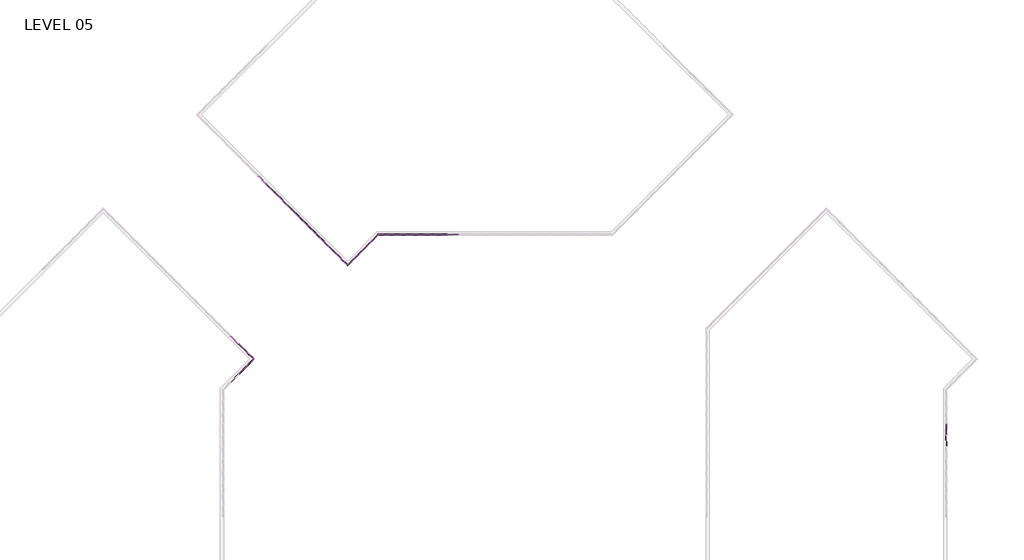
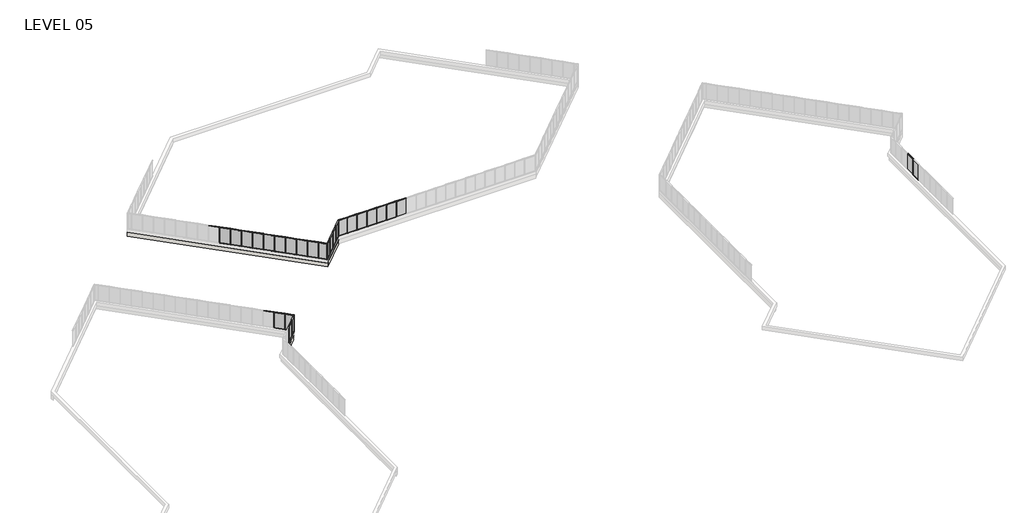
# One storey, part 12 of 17: 84 members, 27 plates, 3 walls.
"""IFC4 building model written with IfcOpenShell, lengths in millimetres."""

from ifc_helpers import new_model, si_unit, frame, origin, place, context, project, spatial, polyline, outline, extrude, faceted_brep, transform, mapped, element, save
from components import member_5247f267, member_e44af9ab, member_800970d4, member_45eb7f2e, member_910c08c9, member_dd9f6d43, plate_67294edd, plate_9c66726c, plate_88df3e37, plate_c3b8b83d, plate_129ab9d0, plate_6ecefdb5

model = new_model("IFC4")

# Units and contexts
model_context = context("Model", 3, world=origin())
ifc_project = project(units=[si_unit("LENGTHUNIT", "METRE", prefix="MILLI")], contexts=[model_context])

# Site, building, storey
site = spatial("IfcSite", under=ifc_project)
building = spatial("IfcBuilding", under=site)
storey = spatial("IfcBuildingStorey", under=building, Name="LEVEL 05", Elevation=15824.2)

# Members
placement = place(None, origin())
member_shape = member_5247f267(model_context)
element("IfcMember", 1, ObjectType="Rectangular Mullion : 2\" x 4.5\" rectangular", at=placement, inside=storey, context=model_context, shape_type="MappedRepresentation", body=[
    mapped(member_shape, transform((6200.5095063, 93365.536663, 15824.2), x_axis=(0.0, 0.0, -1.0), y_axis=(-0.7071067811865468, -0.7071067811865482, 0.0), z_axis=(-0.7071067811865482, 0.7071067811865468, 0.0))),
])
element("IfcMember", 2, ObjectType="Rectangular Mullion : 2\" x 4.5\" rectangular", at=placement, inside=storey, context=model_context, shape_type="MappedRepresentation", body=[
    mapped(member_shape, transform((7278.1402408, 92287.9059285, 15824.2), x_axis=(0.0, 0.0, -1.0), y_axis=(-0.7071067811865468, -0.7071067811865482, 0.0), z_axis=(-0.7071067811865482, 0.7071067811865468, 0.0))),
])
element("IfcMember", 3, ObjectType="Rectangular Mullion : 2\" x 4.5\" rectangular", at=placement, inside=storey, context=model_context, shape_type="MappedRepresentation", body=[
    mapped(member_shape, transform((8355.7709754, 91210.2751939, 15824.2), x_axis=(0.0, 0.0, -1.0), y_axis=(-0.7071067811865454, -0.7071067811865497, 0.0), z_axis=(-0.7071067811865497, 0.7071067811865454, 0.0))),
])
element("IfcMember", 4, ObjectType="Rectangular Mullion : 2\" x 4.5\" rectangular", at=placement, inside=storey, context=model_context, shape_type="MappedRepresentation", body=[
    mapped(member_shape, transform((9433.4017099, 90132.6444594, 15824.2), x_axis=(0.0, 0.0, -1.0), y_axis=(-0.7071067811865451, -0.7071067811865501, 0.0), z_axis=(-0.7071067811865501, 0.7071067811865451, 0.0))),
])
element("IfcMember", 5, ObjectType="Rectangular Mullion : 2\" x 4.5\" rectangular", at=placement, inside=storey, context=model_context, shape_type="MappedRepresentation", body=[
    mapped(member_shape, transform((10511.0324444, 89055.0137249, 15824.2), x_axis=(0.0, 0.0, -1.0), y_axis=(-0.7071067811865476, -0.7071067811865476, 0.0), z_axis=(-0.7071067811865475, 0.7071067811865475, 0.0))),
])
element("IfcMember", 6, ObjectType="Rectangular Mullion : 2\" x 4.5\" rectangular", at=placement, inside=storey, context=model_context, shape_type="MappedRepresentation", body=[
    mapped(member_shape, transform((11588.663179, 87977.3829903, 15824.2), x_axis=(0.0, 0.0, -1.0), y_axis=(-0.7071067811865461, -0.707106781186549, 0.0), z_axis=(-0.707106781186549, 0.7071067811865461, 0.0))),
])
element("IfcMember", 7, ObjectType="Rectangular Mullion : 2\" x 4.5\" rectangular", at=placement, inside=storey, context=model_context, shape_type="MappedRepresentation", body=[
    mapped(member_shape, transform((12666.2939135, 86899.7522558, 15824.2), x_axis=(0.0, 0.0, -1.0), y_axis=(-0.7071067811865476, -0.7071067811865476, 0.0), z_axis=(-0.7071067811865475, 0.7071067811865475, 0.0))),
])
element("IfcMember", 8, ObjectType="Rectangular Mullion : 2\" x 4.5\" rectangular", at=placement, inside=storey, context=model_context, shape_type="MappedRepresentation", body=[
    mapped(member_shape, transform((15463.8924855, 85858.0386548, 15824.2), x_axis=(0.0, 0.0, -1.0), y_axis=(0.7071067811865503, -0.7071067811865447, 0.0), z_axis=(-0.7071067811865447, -0.7071067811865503, 0.0))),
])
element("IfcMember", 9, ObjectType="Rectangular Mullion : 2\" x 4.5\" rectangular", at=placement, inside=storey, context=model_context, shape_type="MappedRepresentation", body=[
    mapped(member_shape, transform((16541.5232201, 86935.6693894, 15824.2), x_axis=(0.0, 0.0, -1.0), y_axis=(0.7071067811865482, -0.7071067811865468, 0.0), z_axis=(-0.7071067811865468, -0.7071067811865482, 0.0))),
])
element("IfcMember", 10, ObjectType="Rectangular Mullion : 2\" x 4.5\" rectangular", at=placement, inside=storey, context=model_context, shape_type="MappedRepresentation", body=[
    mapped(member_shape, transform((27514.55, 88955.8023049, 15824.2), x_axis=(0.0, 0.0, -1.0), y_axis=(0.0, 1.0, 0.0), z_axis=(1.0, 0.0, 0.0))),
])
element("IfcMember", 11, ObjectType="Rectangular Mullion : 2\" x 4.5\" rectangular", at=placement, inside=storey, context=model_context, shape_type="MappedRepresentation", body=[
    mapped(member_shape, transform((24466.55, 88955.8023049, 15824.2), x_axis=(0.0, 0.0, -1.0), y_axis=(0.0, 1.0, 0.0), z_axis=(1.0, 0.0, 0.0))),
])
element("IfcMember", 12, ObjectType="Rectangular Mullion : 2\" x 4.5\" rectangular", at=placement, inside=storey, context=model_context, shape_type="MappedRepresentation", body=[
    mapped(member_shape, transform((22942.55, 88955.8023049, 15824.2), x_axis=(0.0, 0.0, -1.0), y_axis=(0.0, 1.0, 0.0), z_axis=(1.0, 0.0, 0.0))),
])
element("IfcMember", 13, ObjectType="Rectangular Mullion : 2\" x 4.5\" rectangular", at=placement, inside=storey, context=model_context, shape_type="MappedRepresentation", body=[
    mapped(member_shape, transform((21418.55, 88955.8023049, 15824.2), x_axis=(0.0, 0.0, -1.0), y_axis=(0.0, 1.0, 0.0), z_axis=(1.0, 0.0, 0.0))),
])
element("IfcMember", 14, ObjectType="Rectangular Mullion : 2\" x 4.5\" rectangular", at=placement, inside=storey, context=model_context, shape_type="MappedRepresentation", body=[
    mapped(member_shape, transform((25990.55, 88955.8023049, 15824.2), x_axis=(0.0, 0.0, -1.0), y_axis=(0.0, 1.0, 0.0), z_axis=(1.0, 0.0, 0.0))),
])
element("IfcMember", 15, ObjectType="Rectangular Mullion : 2\" x 4.5\" rectangular", at=placement, inside=storey, context=model_context, shape_type="MappedRepresentation", body=[
    mapped(member_shape, transform((4009.6843581, 95556.3618112, 18415.0), x_axis=(0.0, 0.0, 1.0), y_axis=(-0.7071067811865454, -0.7071067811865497, 0.0), z_axis=(0.7071067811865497, -0.7071067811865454, 0.0))),
])
element("IfcMember", 16, ObjectType="Rectangular Mullion : 2\" x 4.5\" rectangular", at=placement, inside=storey, context=model_context, shape_type="MappedRepresentation", body=[
    mapped(member_shape, transform((7242.2192164, 92323.8269529, 18415.0), x_axis=(0.0, 0.0, 1.0), y_axis=(-0.7071067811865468, -0.7071067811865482, 0.0), z_axis=(0.7071067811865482, -0.7071067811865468, 0.0))),
])
element("IfcMember", 17, ObjectType="Rectangular Mullion : 2\" x 4.5\" rectangular", at=placement, inside=storey, context=model_context, shape_type="MappedRepresentation", body=[
    mapped(member_shape, transform((8319.8499509, 91246.1962184, 18415.0), x_axis=(0.0, 0.0, 1.0), y_axis=(-0.7071067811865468, -0.7071067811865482, 0.0), z_axis=(0.7071067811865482, -0.7071067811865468, 0.0))),
])
element("IfcMember", 18, ObjectType="Rectangular Mullion : 2\" x 4.5\" rectangular", at=placement, inside=storey, context=model_context, shape_type="MappedRepresentation", body=[
    mapped(member_shape, transform((9397.4806854, 90168.5654839, 18415.0), x_axis=(0.0, 0.0, 1.0), y_axis=(-0.7071067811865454, -0.7071067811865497, 0.0), z_axis=(0.7071067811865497, -0.7071067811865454, 0.0))),
])
element("IfcMember", 19, ObjectType="Rectangular Mullion : 2\" x 4.5\" rectangular", at=placement, inside=storey, context=model_context, shape_type="MappedRepresentation", body=[
    mapped(member_shape, transform((10475.1114199, 89090.9347494, 18415.0), x_axis=(0.0, 0.0, 1.0), y_axis=(-0.7071067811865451, -0.7071067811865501, 0.0), z_axis=(0.7071067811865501, -0.7071067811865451, 0.0))),
])
element("IfcMember", 20, ObjectType="Rectangular Mullion : 2\" x 4.5\" rectangular", at=placement, inside=storey, context=model_context, shape_type="MappedRepresentation", body=[
    mapped(member_shape, transform((11552.7421545, 88013.3040148, 18415.0), x_axis=(0.0, 0.0, 1.0), y_axis=(-0.7071067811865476, -0.7071067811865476, 0.0), z_axis=(0.7071067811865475, -0.7071067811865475, 0.0))),
])
element("IfcMember", 21, ObjectType="Rectangular Mullion : 2\" x 4.5\" rectangular", at=placement, inside=storey, context=model_context, shape_type="MappedRepresentation", body=[
    mapped(member_shape, transform((12630.372889, 86935.6732803, 18415.0), x_axis=(0.0, 0.0, 1.0), y_axis=(-0.7071067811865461, -0.707106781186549, 0.0), z_axis=(0.707106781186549, -0.7071067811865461, 0.0))),
])
element("IfcMember", 22, ObjectType="Rectangular Mullion : 2\" x 4.5\" rectangular", at=placement, inside=storey, context=model_context, shape_type="MappedRepresentation", body=[
    mapped(member_shape, transform((13708.0036235, 85858.0425458, 18415.0), x_axis=(0.0, 0.0, 1.0), y_axis=(-0.7071067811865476, -0.7071067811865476, 0.0), z_axis=(0.7071067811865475, -0.7071067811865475, 0.0))),
])
element("IfcMember", 23, ObjectType="Rectangular Mullion : 2\" x 4.5\" rectangular", at=placement, inside=storey, context=model_context, shape_type="MappedRepresentation", body=[
    mapped(member_shape, transform((17583.2329301, 87977.3790994, 18415.0), x_axis=(0.0, 0.0, 1.0), y_axis=(0.7071067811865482, -0.7071067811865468, 0.0), z_axis=(0.7071067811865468, 0.7071067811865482, 0.0))),
])
element("IfcMember", 24, ObjectType="Rectangular Mullion : 2\" x 4.5\" rectangular", at=placement, inside=storey, context=model_context, shape_type="MappedRepresentation", body=[
    mapped(member_shape, transform((16505.6021956, 86899.7483649, 18415.0), x_axis=(0.0, 0.0, 1.0), y_axis=(0.7071067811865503, -0.7071067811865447, 0.0), z_axis=(0.7071067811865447, 0.7071067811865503, 0.0))),
])
element("IfcMember", 25, ObjectType="Rectangular Mullion : 2\" x 4.5\" rectangular", at=placement, inside=storey, context=model_context, shape_type="MappedRepresentation", body=[
    mapped(member_shape, transform((27565.35, 88955.8023049, 18415.0), x_axis=(0.0, 0.0, 1.0), y_axis=(0.0, 1.0, 0.0), z_axis=(-1.0, 0.0, 0.0))),
])
element("IfcMember", 26, ObjectType="Rectangular Mullion : 2\" x 4.5\" rectangular", at=placement, inside=storey, context=model_context, shape_type="MappedRepresentation", body=[
    mapped(member_shape, transform((24517.35, 88955.8023049, 18415.0), x_axis=(0.0, 0.0, 1.0), y_axis=(0.0, 1.0, 0.0), z_axis=(-1.0, 0.0, 0.0))),
])
element("IfcMember", 27, ObjectType="Rectangular Mullion : 2\" x 4.5\" rectangular", at=placement, inside=storey, context=model_context, shape_type="MappedRepresentation", body=[
    mapped(member_shape, transform((22993.35, 88955.8023049, 18415.0), x_axis=(0.0, 0.0, 1.0), y_axis=(0.0, 1.0, 0.0), z_axis=(-1.0, 0.0, 0.0))),
])
element("IfcMember", 28, ObjectType="Rectangular Mullion : 2\" x 4.5\" rectangular", at=placement, inside=storey, context=model_context, shape_type="MappedRepresentation", body=[
    mapped(member_shape, transform((21469.35, 88955.8023049, 18415.0), x_axis=(0.0, 0.0, 1.0), y_axis=(0.0, 1.0, 0.0), z_axis=(-1.0, 0.0, 0.0))),
])
element("IfcMember", 29, ObjectType="Rectangular Mullion : 2\" x 4.5\" rectangular", at=placement, inside=storey, context=model_context, shape_type="MappedRepresentation", body=[
    mapped(member_shape, transform((19945.35, 88955.8023049, 18415.0), x_axis=(0.0, 0.0, 1.0), y_axis=(0.0, 1.0, 0.0), z_axis=(-1.0, 0.0, 0.0))),
])
element("IfcMember", 30, ObjectType="Rectangular Mullion : 2\" x 4.5\" rectangular", at=placement, inside=storey, context=model_context, shape_type="MappedRepresentation", body=[
    mapped(member_shape, transform((26041.35, 88955.8023049, 18415.0), x_axis=(0.0, 0.0, 1.0), y_axis=(0.0, 1.0, 0.0), z_axis=(-1.0, 0.0, 0.0))),
])
member_2_shape = member_e44af9ab(model_context)
element("IfcMember", 31, ObjectType="Rectangular Mullion : 2\" x 4.5\" rectangular", at=placement, inside=storey, context=model_context, shape_type="MappedRepresentation", body=[
    mapped(member_2_shape, transform((4027.6448703, 95538.401299, 15824.2), x_axis=(0.7071067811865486, -0.7071067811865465, 0.0), y_axis=(-0.7071067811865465, -0.7071067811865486, 0.0), z_axis=(0.0, 0.0, -1.0))),
])
element("IfcMember", 32, ObjectType="Rectangular Mullion : 2\" x 4.5\" rectangular", at=placement, inside=storey, context=model_context, shape_type="MappedRepresentation", body=[
    mapped(member_2_shape, transform((6182.5489941, 93383.4971752, 15824.2), x_axis=(0.7071067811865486, -0.7071067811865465, 0.0), y_axis=(-0.7071067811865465, -0.7071067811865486, 0.0), z_axis=(0.0, 0.0, -1.0))),
])
element("IfcMember", 33, ObjectType="Rectangular Mullion : 2\" x 4.5\" rectangular", at=placement, inside=storey, context=model_context, shape_type="MappedRepresentation", body=[
    mapped(member_2_shape, transform((7260.1797286, 92305.8664407, 15824.2), x_axis=(0.7071067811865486, -0.7071067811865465, 0.0), y_axis=(-0.7071067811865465, -0.7071067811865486, 0.0), z_axis=(0.0, 0.0, -1.0))),
])
element("IfcMember", 34, ObjectType="Rectangular Mullion : 2\" x 4.5\" rectangular", at=placement, inside=storey, context=model_context, shape_type="MappedRepresentation", body=[
    mapped(member_2_shape, transform((8337.8104631, 91228.2357062, 15824.2), x_axis=(0.7071067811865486, -0.7071067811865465, 0.0), y_axis=(-0.7071067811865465, -0.7071067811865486, 0.0), z_axis=(0.0, 0.0, -1.0))),
])
element("IfcMember", 35, ObjectType="Rectangular Mullion : 2\" x 4.5\" rectangular", at=placement, inside=storey, context=model_context, shape_type="MappedRepresentation", body=[
    mapped(member_2_shape, transform((5105.0969322, 94460.9492371, 15824.2), x_axis=(0.7071067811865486, -0.7071067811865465, 0.0), y_axis=(-0.7071067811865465, -0.7071067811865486, 0.0), z_axis=(0.0, 0.0, -1.0))),
])
element("IfcMember", 36, ObjectType="Rectangular Mullion : 2\" x 4.5\" rectangular", at=placement, inside=storey, context=model_context, shape_type="MappedRepresentation", body=[
    mapped(member_2_shape, transform((9415.4411977, 90150.6049716, 15824.2), x_axis=(0.7071067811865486, -0.7071067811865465, 0.0), y_axis=(-0.7071067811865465, -0.7071067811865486, 0.0), z_axis=(0.0, 0.0, -1.0))),
])
element("IfcMember", 37, ObjectType="Rectangular Mullion : 2\" x 4.5\" rectangular", at=placement, inside=storey, context=model_context, shape_type="MappedRepresentation", body=[
    mapped(member_2_shape, transform((10493.0719322, 89072.9742371, 15824.2), x_axis=(0.7071067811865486, -0.7071067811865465, 0.0), y_axis=(-0.7071067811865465, -0.7071067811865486, 0.0), z_axis=(0.0, 0.0, -1.0))),
])
element("IfcMember", 38, ObjectType="Rectangular Mullion : 2\" x 4.5\" rectangular", at=placement, inside=storey, context=model_context, shape_type="MappedRepresentation", body=[
    mapped(member_2_shape, transform((11570.7026667, 87995.3435026, 15824.2), x_axis=(0.7071067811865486, -0.7071067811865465, 0.0), y_axis=(-0.7071067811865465, -0.7071067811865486, 0.0), z_axis=(0.0, 0.0, -1.0))),
])
element("IfcMember", 39, ObjectType="Rectangular Mullion : 2\" x 4.5\" rectangular", at=placement, inside=storey, context=model_context, shape_type="MappedRepresentation", body=[
    mapped(member_2_shape, transform((12648.3334012, 86917.7127681, 15824.2), x_axis=(0.7071067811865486, -0.7071067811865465, 0.0), y_axis=(-0.7071067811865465, -0.7071067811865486, 0.0), z_axis=(0.0, 0.0, -1.0))),
])
element("IfcMember", 40, ObjectType="Rectangular Mullion : 2\" x 4.5\" rectangular", at=placement, inside=storey, context=model_context, shape_type="MappedRepresentation", body=[
    mapped(member_2_shape, transform((13725.9641358, 85840.0820335, 15824.2), x_axis=(0.7071067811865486, -0.7071067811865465, 0.0), y_axis=(-0.7071067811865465, -0.7071067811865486, 0.0), z_axis=(0.0, 0.0, -1.0))),
])
element("IfcMember", 41, ObjectType="Rectangular Mullion : 2\" x 4.5\" rectangular", at=placement, inside=storey, context=model_context, shape_type="MappedRepresentation", body=[
    mapped(member_2_shape, transform((15445.9319733, 85840.0781426, 15824.2), x_axis=(0.7071067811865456, 0.7071067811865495, 0.0), y_axis=(0.7071067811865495, -0.7071067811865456, 0.0), z_axis=(0.0, 0.0, -1.0))),
])
element("IfcMember", 42, ObjectType="Rectangular Mullion : 2\" x 4.5\" rectangular", at=placement, inside=storey, context=model_context, shape_type="MappedRepresentation", body=[
    mapped(member_2_shape, transform((17601.1934424, 87995.3396117, 15824.2), x_axis=(0.7071067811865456, 0.7071067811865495, 0.0), y_axis=(0.7071067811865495, -0.7071067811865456, 0.0), z_axis=(0.0, 0.0, -1.0))),
])
element("IfcMember", 43, ObjectType="Rectangular Mullion : 2\" x 4.5\" rectangular", at=placement, inside=storey, context=model_context, shape_type="MappedRepresentation", body=[
    mapped(member_2_shape, transform((16523.5627078, 86917.7088771, 15824.2), x_axis=(0.7071067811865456, 0.7071067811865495, 0.0), y_axis=(0.7071067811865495, -0.7071067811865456, 0.0), z_axis=(0.0, 0.0, -1.0))),
])
element("IfcMember", 44, ObjectType="Rectangular Mullion : 2\" x 4.5\" rectangular", at=placement, inside=storey, context=model_context, shape_type="MappedRepresentation", body=[
    mapped(member_2_shape, transform((27539.95, 88955.8023049, 15824.2), x_axis=(-1.0, 0.0, 0.0), y_axis=(0.0, 1.0, 0.0), z_axis=(0.0, 0.0, -1.0))),
])
element("IfcMember", 45, ObjectType="Rectangular Mullion : 2\" x 4.5\" rectangular", at=placement, inside=storey, context=model_context, shape_type="MappedRepresentation", body=[
    mapped(member_2_shape, transform((24491.95, 88955.8023049, 15824.2), x_axis=(-1.0, 0.0, 0.0), y_axis=(0.0, 1.0, 0.0), z_axis=(0.0, 0.0, -1.0))),
])
element("IfcMember", 46, ObjectType="Rectangular Mullion : 2\" x 4.5\" rectangular", at=placement, inside=storey, context=model_context, shape_type="MappedRepresentation", body=[
    mapped(member_2_shape, transform((22967.95, 88955.8023049, 15824.2), x_axis=(-1.0, 0.0, 0.0), y_axis=(0.0, 1.0, 0.0), z_axis=(0.0, 0.0, -1.0))),
])
element("IfcMember", 47, ObjectType="Rectangular Mullion : 2\" x 4.5\" rectangular", at=placement, inside=storey, context=model_context, shape_type="MappedRepresentation", body=[
    mapped(member_2_shape, transform((21443.95, 88955.8023049, 15824.2), x_axis=(-1.0, 0.0, 0.0), y_axis=(0.0, 1.0, 0.0), z_axis=(0.0, 0.0, -1.0))),
])
element("IfcMember", 48, ObjectType="Rectangular Mullion : 2\" x 4.5\" rectangular", at=placement, inside=storey, context=model_context, shape_type="MappedRepresentation", body=[
    mapped(member_2_shape, transform((19919.95, 88955.8023049, 15824.2), x_axis=(-1.0, 0.0, 0.0), y_axis=(0.0, 1.0, 0.0), z_axis=(0.0, 0.0, -1.0))),
])
element("IfcMember", 49, ObjectType="Rectangular Mullion : 2\" x 4.5\" rectangular", at=placement, inside=storey, context=model_context, shape_type="MappedRepresentation", body=[
    mapped(member_2_shape, transform((26015.95, 88955.8023049, 15824.2), x_axis=(-1.0, 0.0, 0.0), y_axis=(0.0, 1.0, 0.0), z_axis=(0.0, 0.0, -1.0))),
])
member_3_shape = member_800970d4(model_context)
element("IfcMember", 50, ObjectType="Rectangular Mullion : 2\" x 4.5\" rectangular", at=placement, inside=storey, context=model_context, shape_type="MappedRepresentation", body=[
    mapped(member_3_shape, transform((14585.95, 84980.0961693, 15824.2), x_axis=(0.7071067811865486, -0.7071067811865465, 0.0), y_axis=(-0.7071067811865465, -0.7071067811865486, 0.0), z_axis=(0.0, 0.0, -1.0))),
])
element("IfcMember", 51, ObjectType="Rectangular Mullion : 2\" x 4.5\" rectangular", at=placement, inside=storey, context=model_context, shape_type="MappedRepresentation", body=[
    mapped(member_3_shape, transform((18561.6561356, 88955.8023049, 15824.2), x_axis=(0.7071067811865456, 0.7071067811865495, 0.0), y_axis=(0.7071067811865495, -0.7071067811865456, 0.0), z_axis=(0.0, 0.0, -1.0))),
])
element("IfcMember", 52, ObjectType="Rectangular Mullion : 2\" x 4.5\" rectangular", at=placement, inside=storey, context=model_context, shape_type="MappedRepresentation", body=[
    mapped(member_3_shape, transform((18561.6561356, 88955.8023049, 15824.2), x_axis=(-1.0, 0.0, 0.0), y_axis=(0.0, 1.0, 0.0), z_axis=(0.0, 0.0, -1.0))),
])
element("IfcMember", 53, ObjectType="Rectangular Mullion : 2\" x 4.5\" rectangular", at=placement, inside=storey, context=model_context, shape_type="MappedRepresentation", body=[
    mapped(member_3_shape, transform((14585.95, 84980.0961693, 18415.0), x_axis=(-0.7071067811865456, -0.7071067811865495, 0.0), y_axis=(0.7071067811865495, -0.7071067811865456, 0.0), z_axis=(0.0, 0.0, 1.0))),
])
member_4_shape = member_45eb7f2e(model_context)
element("IfcMember", 54, ObjectType="Rectangular Mullion : 2\" x 4.5\" rectangular", at=placement, inside=storey, context=model_context, shape_type="MappedRepresentation", body=[
    mapped(member_4_shape, transform((18525.7351111, 88919.8812804, 18415.0), x_axis=(0.0, 0.0, 1.0), y_axis=(0.7071067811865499, -0.7071067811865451, 0.0), z_axis=(0.7071067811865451, 0.7071067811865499, 0.0))),
])
element("IfcMember", 55, ObjectType="Rectangular Mullion : 2\" x 4.5\" rectangular", at=placement, inside=storey, context=model_context, shape_type="MappedRepresentation", body=[
    mapped(member_4_shape, transform((18612.4561356, 88955.8023049, 18415.0), x_axis=(0.0, 0.0, 1.0), y_axis=(0.0, 1.0, 0.0), z_axis=(-1.0, 0.0, 0.0))),
])
element("IfcMember", 56, ObjectType="Rectangular Mullion : 2\" x 4.5\" rectangular", at=placement, inside=storey, context=model_context, shape_type="MappedRepresentation", body=[
    mapped(member_4_shape, transform((17619.1539546, 88013.3001239, 15824.2), x_axis=(0.0, 0.0, -1.0), y_axis=(0.7071067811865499, -0.7071067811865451, 0.0), z_axis=(-0.7071067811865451, -0.7071067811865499, 0.0))),
])
element("IfcMember", 57, ObjectType="Rectangular Mullion : 2\" x 4.5\" rectangular", at=placement, inside=storey, context=model_context, shape_type="MappedRepresentation", body=[
    mapped(member_4_shape, transform((19894.55, 88955.8023049, 15824.2), x_axis=(0.0, 0.0, -1.0), y_axis=(0.0, 1.0, 0.0), z_axis=(1.0, 0.0, 0.0))),
])
member_5_shape = member_910c08c9(model_context)
element("IfcMember", 58, ObjectType="Rectangular Mullion : 2\" x 4.5\" rectangular", at=placement, inside=storey, context=model_context, shape_type="MappedRepresentation", body=[
    mapped(member_5_shape, transform((6164.5884818, 93401.4576875, 18415.0), x_axis=(0.0, 0.0, 1.0), y_axis=(-0.7071067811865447, -0.7071067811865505, 0.0), z_axis=(0.7071067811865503, -0.7071067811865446, 0.0))),
])
element("IfcMember", 59, ObjectType="Rectangular Mullion : 2\" x 4.5\" rectangular", at=placement, inside=storey, context=model_context, shape_type="MappedRepresentation", body=[
    mapped(member_5_shape, transform((5087.1364199, 94478.9097494, 18415.0), x_axis=(0.0, 0.0, 1.0), y_axis=(-0.7071067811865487, -0.7071067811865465, 0.0), z_axis=(0.7071067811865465, -0.7071067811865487, 0.0))),
])
element("IfcMember", 60, ObjectType="Rectangular Mullion : 2\" x 4.5\" rectangular", at=placement, inside=storey, context=model_context, shape_type="MappedRepresentation", body=[
    mapped(member_5_shape, transform((4045.6053825, 95520.4407868, 15824.2), x_axis=(0.0, 0.0, -1.0), y_axis=(-0.7071067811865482, -0.7071067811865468, 0.0), z_axis=(-0.7071067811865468, 0.7071067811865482, 0.0))),
])
element("IfcMember", 61, ObjectType="Rectangular Mullion : 2\" x 4.5\" rectangular", at=placement, inside=storey, context=model_context, shape_type="MappedRepresentation", body=[
    mapped(member_5_shape, transform((5123.0574444, 94442.9887249, 15824.2), x_axis=(0.0, 0.0, -1.0), y_axis=(-0.7071067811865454, -0.7071067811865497, 0.0), z_axis=(-0.7071067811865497, 0.7071067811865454, 0.0))),
])
member_6_shape = member_dd9f6d43(model_context)
element("IfcMember", 62, ObjectType="Rectangular Mullion : 2\" x 4.5\" rectangular", at=placement, inside=storey, context=model_context, shape_type="MappedRepresentation", body=[
    mapped(member_6_shape, transform((14550.0289755, 85016.0171938, 18415.0), x_axis=(0.0, 0.0, 1.0), y_axis=(-0.7071067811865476, -0.7071067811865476, 0.0), z_axis=(0.7071067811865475, -0.7071067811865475, 0.0))),
])
element("IfcMember", 63, ObjectType="Rectangular Mullion : 2\" x 4.5\" rectangular", at=placement, inside=storey, context=model_context, shape_type="MappedRepresentation", body=[
    mapped(member_6_shape, transform((15427.9714611, 85822.1176304, 18415.0), x_axis=(0.0, 0.0, 1.0), y_axis=(0.7071067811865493, -0.7071067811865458, 0.0), z_axis=(0.7071067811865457, 0.7071067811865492, 0.0))),
])
element("IfcMember", 64, ObjectType="Rectangular Mullion : 2\" x 4.5\" rectangular", at=placement, inside=storey, context=model_context, shape_type="MappedRepresentation", body=[
    mapped(member_6_shape, transform((13743.924648, 85822.1215213, 15824.2), x_axis=(0.0, 0.0, -1.0), y_axis=(-0.7071067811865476, -0.7071067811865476, 0.0), z_axis=(-0.7071067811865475, 0.7071067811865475, 0.0))),
])
element("IfcMember", 65, ObjectType="Rectangular Mullion : 2\" x 4.5\" rectangular", at=placement, inside=storey, context=model_context, shape_type="MappedRepresentation", body=[
    mapped(member_6_shape, transform((14621.8710245, 85016.0171938, 15824.2), x_axis=(0.0, 0.0, -1.0), y_axis=(0.7071067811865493, -0.7071067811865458, 0.0), z_axis=(-0.7071067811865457, -0.7071067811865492, 0.0))),
])
element("IfcMember", 66, ObjectType="Rectangular Mullion : 2\" x 4.5\" rectangular", at=placement, inside=storey, context=model_context, shape_type="MappedRepresentation", body=[
    mapped(member_shape, transform((92435.9347164, 62877.3675885, 18415.0), x_axis=(0.0, 0.0, 1.0), y_axis=(-1.0, 0.0, 0.0), z_axis=(0.0, -1.0, 0.0))),
])
element("IfcMember", 67, ObjectType="Rectangular Mullion : 2\" x 4.5\" rectangular", at=placement, inside=storey, context=model_context, shape_type="MappedRepresentation", body=[
    mapped(member_shape, transform((408.2443082, 74713.5446995, 18415.0), x_axis=(0.0, 0.0, 1.0), y_axis=(-0.7071067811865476, -0.7071067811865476, 0.0), z_axis=(0.7071067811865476, -0.7071067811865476, 0.0))),
])
element("IfcMember", 68, ObjectType="Rectangular Mullion : 2\" x 4.5\" rectangular", at=placement, inside=storey, context=model_context, shape_type="MappedRepresentation", body=[
    mapped(member_shape, transform((1485.8750428, 73635.913965, 18415.0), x_axis=(0.0, 0.0, 1.0), y_axis=(-0.7071067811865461, -0.707106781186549, 0.0), z_axis=(0.707106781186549, -0.7071067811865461, 0.0))),
])
element("IfcMember", 69, ObjectType="Rectangular Mullion : 2\" x 4.5\" rectangular", at=placement, inside=storey, context=model_context, shape_type="MappedRepresentation", body=[
    mapped(member_shape, transform((444.1692236, 70838.3153929, 18415.0), x_axis=(0.0, 0.0, 1.0), y_axis=(-0.7071067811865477, 0.7071067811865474, 0.0), z_axis=(-0.7071067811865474, -0.7071067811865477, 0.0))),
])
element("IfcMember", 70, ObjectType="Rectangular Mullion : 2\" x 4.5\" rectangular", at=placement, inside=storey, context=model_context, shape_type="MappedRepresentation", body=[
    mapped(member_shape, transform((92435.9347164, 62826.5675885, 15824.2), x_axis=(0.0, 0.0, -1.0), y_axis=(-1.0, 0.0, 0.0), z_axis=(0.0, 1.0, 0.0))),
])
element("IfcMember", 71, ObjectType="Rectangular Mullion : 2\" x 4.5\" rectangular", at=placement, inside=storey, context=model_context, shape_type="MappedRepresentation", body=[
    mapped(member_shape, transform((444.1653327, 74677.623675, 15824.2), x_axis=(0.0, 0.0, -1.0), y_axis=(-0.7071067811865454, -0.7071067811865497, 0.0), z_axis=(-0.7071067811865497, 0.7071067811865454, 0.0))),
])
element("IfcMember", 72, ObjectType="Rectangular Mullion : 2\" x 4.5\" rectangular", at=placement, inside=storey, context=model_context, shape_type="MappedRepresentation", body=[
    mapped(member_shape, transform((1485.8789337, 71880.025103, 15824.2), x_axis=(0.0, 0.0, -1.0), y_axis=(-0.7071067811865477, 0.7071067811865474, 0.0), z_axis=(0.7071067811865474, 0.7071067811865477, 0.0))),
])
element("IfcMember", 73, ObjectType="Rectangular Mullion : 2\" x 4.5\" rectangular", at=placement, inside=storey, context=model_context, shape_type="MappedRepresentation", body=[
    mapped(member_shape, transform((408.2481992, 70802.3943684, 15824.2), x_axis=(0.0, 0.0, -1.0), y_axis=(-0.7071067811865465, 0.7071067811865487, 0.0), z_axis=(0.7071067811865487, 0.7071067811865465, 0.0))),
])
element("IfcMember", 74, ObjectType="Rectangular Mullion : 2\" x 4.5\" rectangular", at=placement, inside=storey, context=model_context, shape_type="MappedRepresentation", body=[
    mapped(member_2_shape, transform((92435.9347164, 62851.9675885, 15824.2), x_axis=(0.0, -1.0, 0.0), y_axis=(-1.0, 0.0, 0.0), z_axis=(0.0, 0.0, -1.0))),
])
element("IfcMember", 75, ObjectType="Rectangular Mullion : 2\" x 4.5\" rectangular", at=placement, inside=storey, context=model_context, shape_type="MappedRepresentation", body=[
    mapped(member_2_shape, transform((426.2048205, 74695.5841873, 15824.2), x_axis=(0.707106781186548, -0.7071067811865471, 0.0), y_axis=(-0.7071067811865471, -0.707106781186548, 0.0), z_axis=(0.0, 0.0, -1.0))),
])
element("IfcMember", 76, ObjectType="Rectangular Mullion : 2\" x 4.5\" rectangular", at=placement, inside=storey, context=model_context, shape_type="MappedRepresentation", body=[
    mapped(member_2_shape, transform((1503.835555, 73617.9534527, 15824.2), x_axis=(0.707106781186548, -0.7071067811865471, 0.0), y_axis=(-0.7071067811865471, -0.707106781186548, 0.0), z_axis=(0.0, 0.0, -1.0))),
])
element("IfcMember", 77, ObjectType="Rectangular Mullion : 2\" x 4.5\" rectangular", at=placement, inside=storey, context=model_context, shape_type="MappedRepresentation", body=[
    mapped(member_2_shape, transform((1503.8394459, 71897.9856152, 15824.2), x_axis=(-0.707106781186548, -0.7071067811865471, 0.0), y_axis=(-0.7071067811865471, 0.707106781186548, 0.0), z_axis=(0.0, 0.0, -1.0))),
])
element("IfcMember", 78, ObjectType="Rectangular Mullion : 2\" x 4.5\" rectangular", at=placement, inside=storey, context=model_context, shape_type="MappedRepresentation", body=[
    mapped(member_2_shape, transform((426.2087114, 70820.3548807, 15824.2), x_axis=(-0.707106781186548, -0.7071067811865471, 0.0), y_axis=(-0.7071067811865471, 0.707106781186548, 0.0), z_axis=(0.0, 0.0, -1.0))),
])
element("IfcMember", 79, ObjectType="Rectangular Mullion : 2\" x 4.5\" rectangular", at=placement, inside=storey, context=model_context, shape_type="MappedRepresentation", body=[
    mapped(member_3_shape, transform((2363.8214192, 72757.9675885, 15824.2), x_axis=(0.707106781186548, -0.7071067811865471, 0.0), y_axis=(-0.7071067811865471, -0.707106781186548, 0.0), z_axis=(0.0, 0.0, -1.0))),
])
element("IfcMember", 80, ObjectType="Rectangular Mullion : 2\" x 4.5\" rectangular", at=placement, inside=storey, context=model_context, shape_type="MappedRepresentation", body=[
    mapped(member_3_shape, transform((2363.8214192, 72757.9675885, 18415.0), x_axis=(0.707106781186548, 0.7071067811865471, 0.0), y_axis=(-0.7071067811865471, 0.707106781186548, 0.0), z_axis=(0.0, 0.0, 1.0))),
])
element("IfcMember", 81, ObjectType="Rectangular Mullion : 2\" x 4.5\" rectangular", at=placement, inside=storey, context=model_context, shape_type="MappedRepresentation", body=[
    mapped(member_6_shape, transform((2327.9003947, 72793.888613, 18415.0), x_axis=(0.0, 0.0, 1.0), y_axis=(-0.7071067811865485, -0.7071067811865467, 0.0), z_axis=(0.7071067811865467, -0.7071067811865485, 0.0))),
])
element("IfcMember", 82, ObjectType="Rectangular Mullion : 2\" x 4.5\" rectangular", at=placement, inside=storey, context=model_context, shape_type="MappedRepresentation", body=[
    mapped(member_6_shape, transform((1521.7999582, 71915.9461275, 18415.0), x_axis=(0.0, 0.0, 1.0), y_axis=(-0.7071067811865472, 0.7071067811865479, 0.0), z_axis=(-0.7071067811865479, -0.7071067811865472, 0.0))),
])
element("IfcMember", 83, ObjectType="Rectangular Mullion : 2\" x 4.5\" rectangular", at=placement, inside=storey, context=model_context, shape_type="MappedRepresentation", body=[
    mapped(member_6_shape, transform((1521.7960672, 73599.9929405, 15824.2), x_axis=(0.0, 0.0, -1.0), y_axis=(-0.7071067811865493, -0.7071067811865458, 0.0), z_axis=(-0.7071067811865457, 0.7071067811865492, 0.0))),
])
element("IfcMember", 84, ObjectType="Rectangular Mullion : 2\" x 4.5\" rectangular", at=placement, inside=storey, context=model_context, shape_type="MappedRepresentation", body=[
    mapped(member_6_shape, transform((2327.9003947, 72722.046564, 15824.2), x_axis=(0.0, 0.0, -1.0), y_axis=(-0.7071067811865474, 0.7071067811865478, 0.0), z_axis=(0.7071067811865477, 0.7071067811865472, 0.0))),
])

# Plates
plate_shape = plate_67294edd(model_context)
element("IfcPlate", 85, ObjectType="System Panel : 1/4\" Glass", at=placement, inside=storey, context=model_context, shape_type="MappedRepresentation", body=[
    mapped(plate_shape, transform((6721.3643613, 92844.681808, 15875.0), x_axis=(0.7071067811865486, -0.7071067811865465, 0.0), y_axis=(0.7071067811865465, 0.7071067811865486, 0.0), z_axis=(0.0, 0.0, 1.0))),
])
element("IfcPlate", 86, ObjectType="System Panel : 1/4\" Glass", at=placement, inside=storey, context=model_context, shape_type="MappedRepresentation", body=[
    mapped(plate_shape, transform((7798.9950959, 91767.0510734, 15875.0), x_axis=(0.7071067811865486, -0.7071067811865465, 0.0), y_axis=(0.7071067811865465, 0.7071067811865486, 0.0), z_axis=(0.0, 0.0, 1.0))),
])
element("IfcPlate", 87, ObjectType="System Panel : 1/4\" Glass", at=placement, inside=storey, context=model_context, shape_type="MappedRepresentation", body=[
    mapped(plate_shape, transform((8876.6258304, 90689.4203389, 15875.0), x_axis=(0.7071067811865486, -0.7071067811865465, 0.0), y_axis=(0.7071067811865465, 0.7071067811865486, 0.0), z_axis=(0.0, 0.0, 1.0))),
])
element("IfcPlate", 88, ObjectType="System Panel : 1/4\" Glass", at=placement, inside=storey, context=model_context, shape_type="MappedRepresentation", body=[
    mapped(plate_shape, transform((9954.2565649, 89611.7896044, 15875.0), x_axis=(0.7071067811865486, -0.7071067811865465, 0.0), y_axis=(0.7071067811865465, 0.7071067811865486, 0.0), z_axis=(0.0, 0.0, 1.0))),
])
element("IfcPlate", 89, ObjectType="System Panel : 1/4\" Glass", at=placement, inside=storey, context=model_context, shape_type="MappedRepresentation", body=[
    mapped(plate_shape, transform((11031.8872995, 88534.1588698, 15875.0), x_axis=(0.7071067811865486, -0.7071067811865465, 0.0), y_axis=(0.7071067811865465, 0.7071067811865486, 0.0), z_axis=(0.0, 0.0, 1.0))),
])
element("IfcPlate", 90, ObjectType="System Panel : 1/4\" Glass", at=placement, inside=storey, context=model_context, shape_type="MappedRepresentation", body=[
    mapped(plate_shape, transform((12109.518034, 87456.5281353, 15875.0), x_axis=(0.7071067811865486, -0.7071067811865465, 0.0), y_axis=(0.7071067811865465, 0.7071067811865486, 0.0), z_axis=(0.0, 0.0, 1.0))),
])
element("IfcPlate", 91, ObjectType="System Panel : 1/4\" Glass", at=placement, inside=storey, context=model_context, shape_type="MappedRepresentation", body=[
    mapped(plate_shape, transform((13187.1487685, 86378.8974008, 15875.0), x_axis=(0.7071067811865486, -0.7071067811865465, 0.0), y_axis=(0.7071067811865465, 0.7071067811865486, 0.0), z_axis=(0.0, 0.0, 1.0))),
])
element("IfcPlate", 92, ObjectType="System Panel : 1/4\" Glass", at=placement, inside=storey, context=model_context, shape_type="MappedRepresentation", body=[
    mapped(plate_shape, transform((15984.7473406, 86378.8935099, 15875.0), x_axis=(0.7071067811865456, 0.7071067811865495, 0.0), y_axis=(-0.7071067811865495, 0.7071067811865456, 0.0), z_axis=(0.0, 0.0, 1.0))),
])
element("IfcPlate", 93, ObjectType="System Panel : 1/4\" Glass", at=placement, inside=storey, context=model_context, shape_type="MappedRepresentation", body=[
    mapped(plate_shape, transform((17062.3780751, 87456.5242444, 15875.0), x_axis=(0.7071067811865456, 0.7071067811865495, 0.0), y_axis=(-0.7071067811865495, 0.7071067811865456, 0.0), z_axis=(0.0, 0.0, 1.0))),
])
element("IfcPlate", 94, ObjectType="System Panel : 1/4\" Glass", at=placement, inside=storey, context=model_context, shape_type="MappedRepresentation", body=[
    mapped(plate_shape, transform((28301.95, 88955.8023049, 15875.0), x_axis=(-1.0, 0.0, 0.0), y_axis=(0.0, -1.0, 0.0), z_axis=(0.0, 0.0, 1.0))),
])
element("IfcPlate", 95, ObjectType="System Panel : 1/4\" Glass", at=placement, inside=storey, context=model_context, shape_type="MappedRepresentation", body=[
    mapped(plate_shape, transform((26777.95, 88955.8023049, 15875.0), x_axis=(-1.0, 0.0, 0.0), y_axis=(0.0, -1.0, 0.0), z_axis=(0.0, 0.0, 1.0))),
])
element("IfcPlate", 96, ObjectType="System Panel : 1/4\" Glass", at=placement, inside=storey, context=model_context, shape_type="MappedRepresentation", body=[
    mapped(plate_shape, transform((23729.95, 88955.8023049, 15875.0), x_axis=(-1.0, 0.0, 0.0), y_axis=(0.0, -1.0, 0.0), z_axis=(0.0, 0.0, 1.0))),
])
element("IfcPlate", 97, ObjectType="System Panel : 1/4\" Glass", at=placement, inside=storey, context=model_context, shape_type="MappedRepresentation", body=[
    mapped(plate_shape, transform((22205.95, 88955.8023049, 15875.0), x_axis=(-1.0, 0.0, 0.0), y_axis=(0.0, -1.0, 0.0), z_axis=(0.0, 0.0, 1.0))),
])
element("IfcPlate", 98, ObjectType="System Panel : 1/4\" Glass", at=placement, inside=storey, context=model_context, shape_type="MappedRepresentation", body=[
    mapped(plate_shape, transform((20681.95, 88955.8023049, 15875.0), x_axis=(-1.0, 0.0, 0.0), y_axis=(0.0, -1.0, 0.0), z_axis=(0.0, 0.0, 1.0))),
])
element("IfcPlate", 99, ObjectType="System Panel : 1/4\" Glass", at=placement, inside=storey, context=model_context, shape_type="MappedRepresentation", body=[
    mapped(plate_shape, transform((25253.95, 88955.8023049, 15875.0), x_axis=(-1.0, 0.0, 0.0), y_axis=(0.0, -1.0, 0.0), z_axis=(0.0, 0.0, 1.0))),
])
plate_2_shape = plate_9c66726c(model_context)
element("IfcPlate", 100, ObjectType="System Panel : 1/4\" Glass", at=placement, inside=storey, context=model_context, shape_type="MappedRepresentation", body=[
    mapped(plate_2_shape, transform((19253.5030678, 88955.8023049, 15875.0), x_axis=(-1.0, 0.0, 0.0), y_axis=(0.0, -1.0, 0.0), z_axis=(0.0, 0.0, 1.0))),
])
plate_3_shape = plate_88df3e37(model_context)
element("IfcPlate", 101, ObjectType="System Panel : 1/4\" Glass", at=placement, inside=storey, context=model_context, shape_type="MappedRepresentation", body=[
    mapped(plate_3_shape, transform((4566.3709012, 94999.6752681, 15875.0), x_axis=(0.7071067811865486, -0.7071067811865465, 0.0), y_axis=(0.7071067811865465, 0.7071067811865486, 0.0), z_axis=(0.0, 0.0, 1.0))),
])
element("IfcPlate", 102, ObjectType="System Panel : 1/4\" Glass", at=placement, inside=storey, context=model_context, shape_type="MappedRepresentation", body=[
    mapped(plate_3_shape, transform((5643.8229631, 93922.2232062, 15875.0), x_axis=(0.7071067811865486, -0.7071067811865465, 0.0), y_axis=(0.7071067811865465, 0.7071067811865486, 0.0), z_axis=(0.0, 0.0, 1.0))),
])
plate_4_shape = plate_c3b8b83d(model_context)
element("IfcPlate", 103, ObjectType="System Panel : 1/4\" Glass", at=placement, inside=storey, context=model_context, shape_type="MappedRepresentation", body=[
    mapped(plate_4_shape, transform((14146.9768118, 85419.0693575, 15875.0), x_axis=(0.7071067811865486, -0.7071067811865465, 0.0), y_axis=(0.7071067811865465, 0.7071067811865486, 0.0), z_axis=(0.0, 0.0, 1.0))),
])
plate_5_shape = plate_129ab9d0(model_context)
element("IfcPlate", 104, ObjectType="System Panel : 1/4\" Glass", at=placement, inside=storey, context=model_context, shape_type="MappedRepresentation", body=[
    mapped(plate_5_shape, transform((18072.4445329, 88466.5907022, 15875.0), x_axis=(0.7071067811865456, 0.7071067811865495, 0.0), y_axis=(-0.7071067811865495, 0.7071067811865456, 0.0), z_axis=(0.0, 0.0, 1.0))),
])
plate_6_shape = plate_6ecefdb5(model_context)
element("IfcPlate", 105, ObjectType="System Panel : 1/4\" Glass", at=placement, inside=storey, context=model_context, shape_type="MappedRepresentation", body=[
    mapped(plate_6_shape, transform((15024.9212428, 85419.0674121, 15875.0), x_axis=(0.7071067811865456, 0.7071067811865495, 0.0), y_axis=(-0.7071067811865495, 0.7071067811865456, 0.0), z_axis=(0.0, 0.0, 1.0))),
])
element("IfcPlate", 106, ObjectType="System Panel : 1/4\" Glass", at=placement, inside=storey, context=model_context, shape_type="MappedRepresentation", body=[
    mapped(plate_shape, transform((92435.9347164, 63613.9675885, 15875.0), x_axis=(0.0, -1.0, 0.0), y_axis=(1.0, 0.0, 0.0), z_axis=(0.0, 0.0, 1.0))),
])
element("IfcPlate", 107, ObjectType="System Panel : 1/4\" Glass", at=placement, inside=storey, context=model_context, shape_type="MappedRepresentation", body=[
    mapped(plate_shape, transform((92435.9347164, 62089.9675885, 15875.0), x_axis=(0.0, -1.0, 0.0), y_axis=(1.0, 0.0, 0.0), z_axis=(0.0, 0.0, 1.0))),
])
element("IfcPlate", 108, ObjectType="System Panel : 1/4\" Glass", at=placement, inside=storey, context=model_context, shape_type="MappedRepresentation", body=[
    mapped(plate_shape, transform((965.0201877, 74156.76882, 15875.0), x_axis=(0.707106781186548, -0.7071067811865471, 0.0), y_axis=(0.7071067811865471, 0.707106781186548, 0.0), z_axis=(0.0, 0.0, 1.0))),
])
element("IfcPlate", 109, ObjectType="System Panel : 1/4\" Glass", at=placement, inside=storey, context=model_context, shape_type="MappedRepresentation", body=[
    mapped(plate_shape, transform((965.0240787, 71359.170248, 15875.0), x_axis=(-0.707106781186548, -0.7071067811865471, 0.0), y_axis=(0.7071067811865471, -0.707106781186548, 0.0), z_axis=(0.0, 0.0, 1.0))),
])
element("IfcPlate", 110, ObjectType="System Panel : 1/4\" Glass", at=placement, inside=storey, context=model_context, shape_type="MappedRepresentation", body=[
    mapped(plate_6_shape, transform((1924.8501765, 72318.9963457, 15875.0), x_axis=(-0.707106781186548, -0.7071067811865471, 0.0), y_axis=(0.7071067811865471, -0.707106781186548, 0.0), z_axis=(0.0, 0.0, 1.0))),
])
element("IfcPlate", 111, ObjectType="System Panel : 1/4\" Glass", at=placement, inside=storey, context=model_context, shape_type="MappedRepresentation", body=[
    mapped(plate_4_shape, transform((1924.848231, 73196.9407768, 15875.0), x_axis=(0.707106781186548, -0.7071067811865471, 0.0), y_axis=(0.7071067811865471, 0.707106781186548, 0.0), z_axis=(0.0, 0.0, 1.0))),
])

# Walls
element("IfcWall", 112, ObjectType="01-CONCRETE-12", at=placement, inside=storey, context=model_context, shape_type="Brep", body=[
    faceted_brep([(14801.4761469, 85114.8000111, 14643.1), (14585.95, 85330.326158, 14643.1), (-4625.6011469, 104541.8773049, 14643.1), (-4841.1272938, 104757.4034518, 14643.1), (-4841.1272938, 104757.4034518, 15265.4), (-4625.6011469, 104541.8773049, 15265.4), (14585.95, 85330.326158, 15265.4), (14801.4761469, 85114.8000111, 15265.4), (14585.95, 84899.2738642, 14643.1), (14585.95, 84899.2738642, 15265.4), (-5056.6534407, 104541.8773049, 15265.4), (-5056.6534407, 104541.8773049, 14643.1)], [[[0, 1, 2, 3, 4, 5, 6, 7]], [[8, 9, 10, 11]], [[3, 2, 1, 0, 8, 11]], [[7, 6, 5, 4, 10, 9]], [[0, 7, 9, 8]], [[4, 3, 11, 10]]]),
])
element("IfcWall", 113, ObjectType="01-CONCRETE-12", at=placement, inside=storey, context=model_context, shape_type="SweptSolid", body=[
    extrude(outline(polyline([(14585.95, 85330.326158), (18154.2761469, 88898.6523049), (18585.3284407, 88898.6523049), (14801.4761469, 85114.8000111), (14585.95, 85330.326158)])), frame((0.0, 0.0, 14643.1), z_axis=(0.0, 0.0, 1.0), x_axis=(1.0, 0.0, 0.0)), (0.0, 0.0, 1.0), 622.3),
])
element("IfcWall", 114, ObjectType="01-CONCRETE-12", at=placement, inside=storey, context=model_context, shape_type="SweptSolid", body=[
    extrude(outline(polyline([(2229.1175774, 72542.4414416), (-1554.7347164, 68758.5891478), (-1554.7347164, 69189.6414416), (2013.5914305, 72757.9675885), (2229.1175774, 72542.4414416)])), frame((0.0, 0.0, 14643.1), z_axis=(0.0, 0.0, 1.0), x_axis=(1.0, 0.0, 0.0)), (0.0, 0.0, 1.0), 622.3),
])

save(model, "model.ifc")
